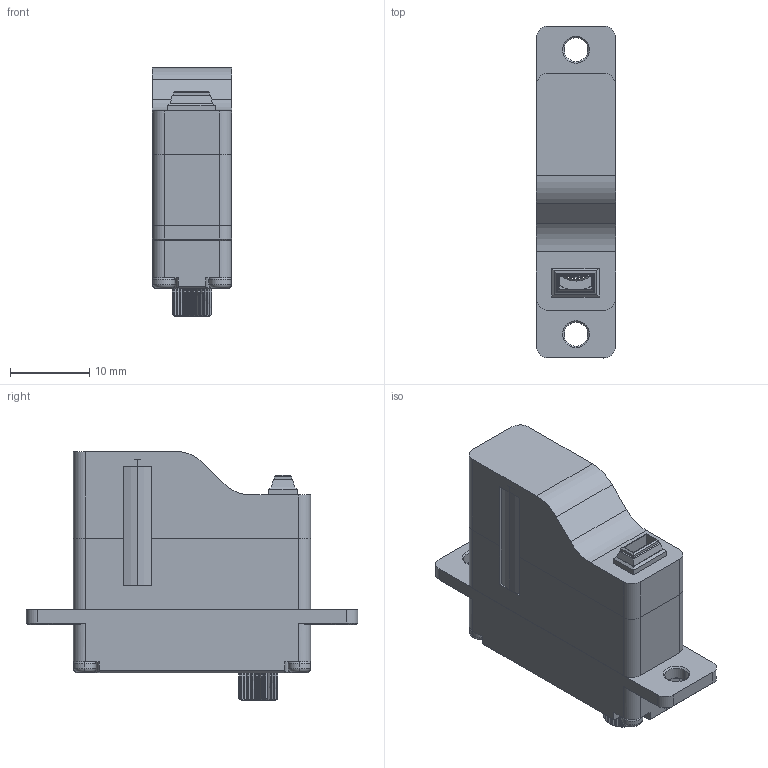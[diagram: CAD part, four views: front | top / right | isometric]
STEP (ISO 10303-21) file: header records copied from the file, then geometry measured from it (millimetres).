
FILE_DESCRIPTION (( 'STEP AP214' ), '1' );
FILE_NAME ('X10 Mini Pro-B_DM_20230717.STEP', '2023-07-25T08:41:08', ( '' ), ( '' ), 'SwSTEP 2.0', 'SolidWorks 2016', '' );
FILE_SCHEMA (( 'AUTOMOTIVE_DESIGN' ));
Length unit declared in the file: millimetre
Products named in the file (1): X10 Mini Pro-B_DM_20230717
Bounding box: 10 x 42 x 31.5 mm (x, y, z)
Surface area: 3791.1 mm2 (no closed solid volume)
Topology: 0 solids, 11 shells, 421 faces, 1210 edges, 790 vertices
Faces by surface type: cylinder 165, plane 144, bspline 50, cone 46, torus 16
Entity records: 19919 total; most frequent: CARTESIAN_POINT 4387, DIRECTION 2263, ORIENTED_EDGE 2252, EDGE_CURVE 1210, AXIS2_PLACEMENT_3D 836, VERTEX_POINT 790, VECTOR 591, LINE 591
